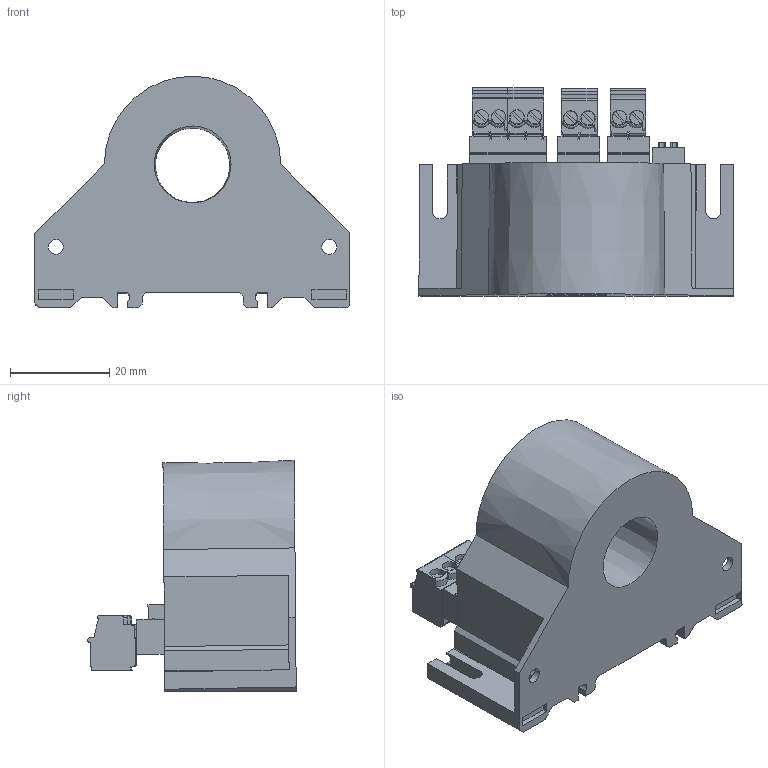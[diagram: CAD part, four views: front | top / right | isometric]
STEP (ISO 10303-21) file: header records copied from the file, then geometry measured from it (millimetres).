
FILE_DESCRIPTION(/* description */ (''),/* implementation_level */ '2;1');
FILE_NAME(/* name */ 'C:\Users\funes\Desktop\QI-POWER-485.stp',/* time_stamp */ '2017-09-06T11:01:20+02:00',/* author */ ('funes'),/* organization */ (''),/* preprocessor_version */ 'ST-DEVELOPER v16.1',/* originating_system */ 'Autodesk Inventor LT ',/* authorisation */ '');
FILE_SCHEMA (('AUTOMOTIVE_DESIGN { 1 0 10303 214 3 1 1 }'));
Length unit declared in the file: millimetre
Products named in the file (1): QI-POWER-485_rendering
Bounding box: 63.23 x 41.92 x 46.56 mm (x, y, z)
Volume: 46020.5 mm3; surface area: 33320.7 mm2
Topology: 35 solids, 35 shells, 2379 faces, 6260 edges, 4014 vertices
Faces by surface type: plane 1642, cylinder 551, sphere 72, bspline 55, cone 32, torus 27
Full cylindrical faces by diameter (mm): 0.1 x2, 0.457 x7, 0.6 x3, 0.9 x6, 1 x10, 1.2 x8, 1.6 x13, 2.51 x1, 2.52 x1, 2.8 x8, 2.9 x8, 3 x2, 18.005 x1
Entity records: 75274 total; most frequent: CARTESIAN_POINT 16680, ORIENTED_EDGE 12128, DIRECTION 11703, EDGE_CURVE 6050, LINE 4557, VECTOR 4557, VERTEX_POINT 3964, AXIS2_PLACEMENT_3D 3573
